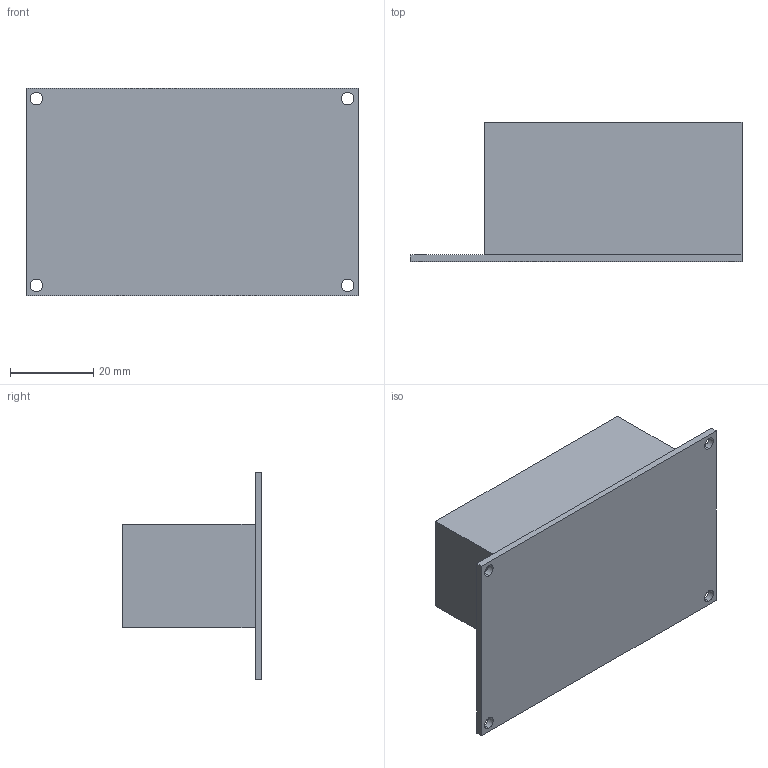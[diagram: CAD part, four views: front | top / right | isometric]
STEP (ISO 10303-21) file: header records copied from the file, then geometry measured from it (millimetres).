
FILE_DESCRIPTION (( 'STEP AP214' ), '1' );
FILE_NAME ('Arduino_MKR_Motor_Carrier.STEP', '2026-02-22T20:10:14', ( '' ), ( '' ), 'SwSTEP 2.0', 'SolidWorks 2024', '' );
FILE_SCHEMA (( 'AUTOMOTIVE_DESIGN' ));
Length unit declared in the file: millimetre
Products named in the file (1): Arduino_MKR_Motor_Carrier
Bounding box: 80 x 33.6 x 50 mm (x, y, z)
Volume: 55954.8 mm3; surface area: 13987.8 mm2
Topology: 1 solids, 1 shells, 18 faces, 48 edges, 32 vertices
Faces by surface type: plane 10, cylinder 8
Entity records: 607 total; most frequent: DIRECTION 102, CARTESIAN_POINT 99, ORIENTED_EDGE 96, EDGE_CURVE 48, AXIS2_PLACEMENT_3D 35, LINE 32, VERTEX_POINT 32, VECTOR 32
